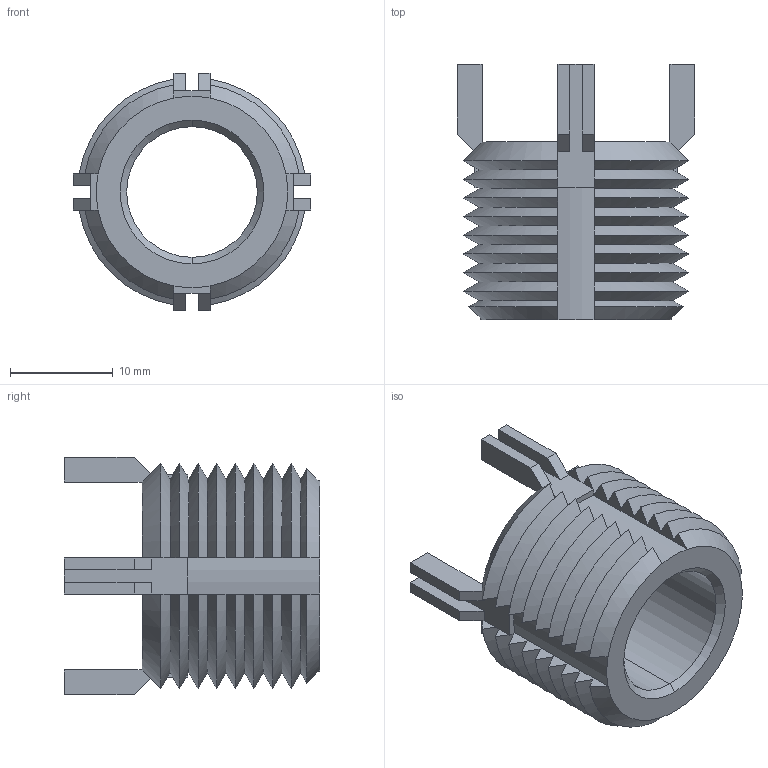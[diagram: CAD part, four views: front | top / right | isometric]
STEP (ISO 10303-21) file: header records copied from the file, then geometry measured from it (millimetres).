
FILE_DESCRIPTION (( 'STEP AP203' ), '1' );
FILE_NAME ('22034.W0381.step', '2023-04-20T09:57:45', ( '' ), ( '' ), 'SwSTEP 2.0', 'SolidWorks 2019', '' );
FILE_SCHEMA (( 'CONFIG_CONTROL_DESIGN' ));
Length unit declared in the file: millimetre
Products named in the file (1): 22034.W0381
Bounding box: 23.06 x 24.83 x 23.06 mm (x, y, z)
Volume: 3529.6 mm3; surface area: 3467.5 mm2
Topology: 1 solids, 1 shells, 172 faces, 450 edges, 280 vertices
Faces by surface type: plane 90, cone 76, cylinder 6
Entity records: 5475 total; most frequent: CARTESIAN_POINT 1479, ORIENTED_EDGE 900, DIRECTION 704, EDGE_CURVE 450, VERTEX_POINT 280, AXIS2_PLACEMENT_3D 265, B_SPLINE_CURVE_WITH_KNOTS 184, LINE 174
